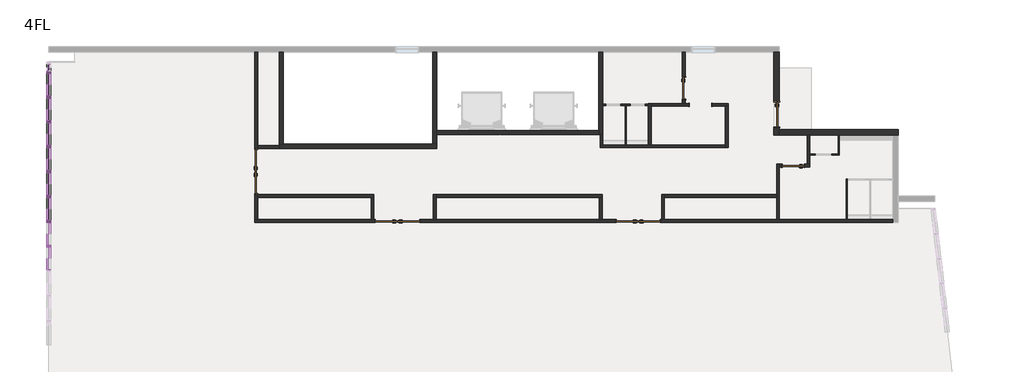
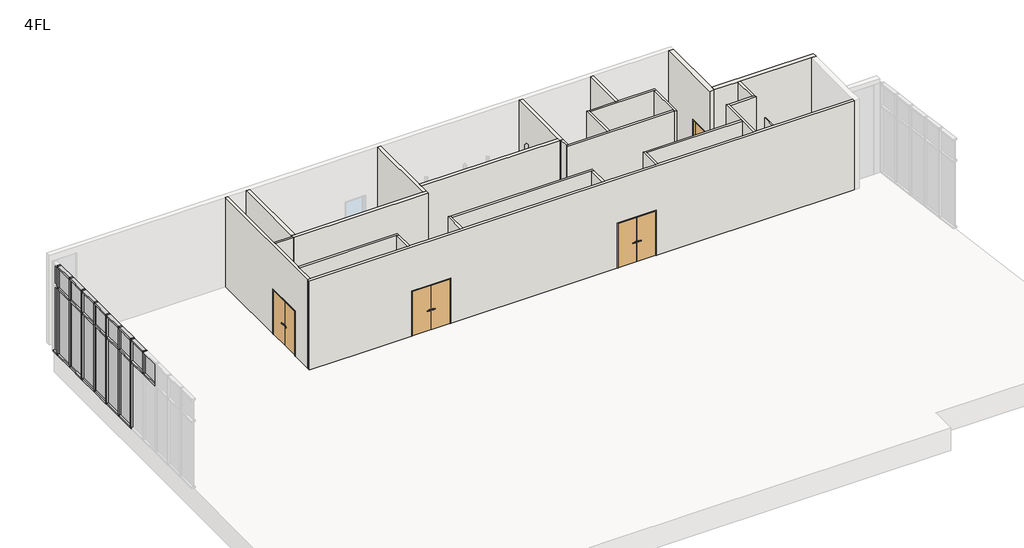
# One storey, part 3 of 4: 37 members, 31 walls, 16 plates, 7 doors.
"""IFC4 building model written with IfcOpenShell, lengths in millimetres."""

from ifc_helpers import new_model, si_unit, frame, origin, place, context, project, spatial, polyline, outline, extrude, faceted_brep, transform, mapped, element, save
from components import door_1de376c6, w800h2000_3f366617, w800h2000_fc627520, w800h2000_d76b1b72, w900h2000_8d150256, member_70x150_cdd4dcf9, member_70x150_66cf63de, member_70x150_26475b18, member_70x150_ad4265bc, member_70x150_a15bb337, plate_28587fd3, plate_396bcf3c, plate_4066ba05, plate_ba683b9a

model = new_model("IFC4")

# Units and contexts
model_context = context("Model", 3, world=origin())
ifc_project = project(units=[si_unit("LENGTHUNIT", "METRE", prefix="MILLI")], contexts=[model_context])

# Site, building, storey
site = spatial("IfcSite", under=ifc_project)
building = spatial("IfcBuilding", under=site)
storey = spatial("IfcBuildingStorey", under=building, Name="4FL", Elevation=12600.0)

# Doors
placement = place(None, origin())
door_shape = door_1de376c6(model_context)
element("IfcDoor", 1, ObjectType="両開き戸 : 両開き：w1600h2000", at=placement, inside=storey, context=model_context, shape_type="MappedRepresentation", body=[
    mapped(door_shape, transform((-21845.9784025, 12245.6585069, 12600.0), x_axis=(0.0, 1.0, 0.0), y_axis=(-1.0, 0.0, 0.0), z_axis=(0.0, 0.0, 1.0))),
])
element("IfcDoor", 2, ObjectType="両開き戸 : 両開き：w1600h2000", at=placement, inside=storey, context=model_context, shape_type="MappedRepresentation", body=[
    mapped(door_shape, transform((-16754.4500107, 10449.6868987, 12600.0), x_axis=(-1.0, 0.0, 0.0), y_axis=(0.0, -1.0, 0.0), z_axis=(0.0, 0.0, 1.0))),
])
element("IfcDoor", 3, ObjectType="両開き戸 : 両開き：w1600h2000", at=placement, inside=storey, context=model_context, shape_type="MappedRepresentation", body=[
    mapped(door_shape, transform((-8054.4500107, 10449.6868987, 12600.0), x_axis=(-1.0, 0.0, 0.0), y_axis=(0.0, -1.0, 0.0), z_axis=(0.0, 0.0, 1.0))),
])
w800h2000_shape = w800h2000_3f366617(model_context)
element("IfcDoor", 4, ObjectType="片開き戸 : w800h2000", at=placement, inside=storey, context=model_context, shape_type="MappedRepresentation", body=[
    mapped(w800h2000_shape, transform((-2445.9784025, 12449.6868987, 12600.0), x_axis=(-1.0, 0.0, 0.0), y_axis=(0.0, -1.0, 0.0), z_axis=(0.0, 0.0, 1.0))),
])
w800h2000_2_shape = w800h2000_fc627520(model_context)
element("IfcDoor", 5, ObjectType="片開き戸 : w800h2000", at=placement, inside=storey, context=model_context, shape_type="MappedRepresentation", body=[
    mapped(w800h2000_2_shape, transform((-6395.9784025, 15249.6868987, 12600.0), x_axis=(0.0, -1.0, 0.0), y_axis=(1.0, 0.0, 0.0), z_axis=(0.0, 0.0, 1.0))),
])
w800h2000_3_shape = w800h2000_d76b1b72(model_context)
element("IfcDoor", 6, ObjectType="開口枠あり : w800h2000", at=placement, inside=storey, context=model_context, shape_type="MappedRepresentation", body=[
    mapped(w800h2000_3_shape, transform((-5795.9784025, 14649.6868987, 12600.0), x_axis=(-1.0, 0.0, 0.0), y_axis=(0.0, -1.0, 0.0), z_axis=(0.0, 0.0, 1.0))),
])
w900h2000_shape = w900h2000_8d150256(model_context)
element("IfcDoor", 7, ObjectType="片開き戸 : w900h2000", at=placement, inside=storey, context=model_context, shape_type="MappedRepresentation", body=[
    mapped(w900h2000_shape, transform((-3045.9784025, 14299.6868987, 12600.0), x_axis=(0.0, -1.0, 0.0), y_axis=(1.0, 0.0, 0.0), z_axis=(0.0, 0.0, 1.0))),
])

# Members
member_70x150_shape = member_70x150_cdd4dcf9(model_context)
element("IfcMember", 8, ObjectType="長方形のマリオン : 70x150", at=placement, inside=storey, context=model_context, shape_type="MappedRepresentation", body=[
    mapped(member_70x150_shape, transform((-29345.9784025, 15834.6868987, 12600.0), x_axis=(0.0, 1.0, 0.0), y_axis=(1.0, 0.0, 0.0), z_axis=(0.0, 0.0, -1.0))),
])
element("IfcMember", 9, ObjectType="長方形のマリオン : 70x150", at=placement, inside=storey, context=model_context, shape_type="MappedRepresentation", body=[
    mapped(member_70x150_shape, transform((-29345.9784025, 14934.6868987, 12600.0), x_axis=(0.0, 1.0, 0.0), y_axis=(1.0, 0.0, 0.0), z_axis=(0.0, 0.0, -1.0))),
])
element("IfcMember", 10, ObjectType="長方形のマリオン : 70x150", at=placement, inside=storey, context=model_context, shape_type="MappedRepresentation", body=[
    mapped(member_70x150_shape, transform((-29345.9784025, 14034.6868987, 12600.0), x_axis=(0.0, 1.0, 0.0), y_axis=(1.0, 0.0, 0.0), z_axis=(0.0, 0.0, -1.0))),
])
element("IfcMember", 11, ObjectType="長方形のマリオン : 70x150", at=placement, inside=storey, context=model_context, shape_type="MappedRepresentation", body=[
    mapped(member_70x150_shape, transform((-29345.9784025, 13134.6868987, 12600.0), x_axis=(0.0, 1.0, 0.0), y_axis=(1.0, 0.0, 0.0), z_axis=(0.0, 0.0, -1.0))),
])
element("IfcMember", 12, ObjectType="長方形のマリオン : 70x150", at=placement, inside=storey, context=model_context, shape_type="MappedRepresentation", body=[
    mapped(member_70x150_shape, transform((-29345.9784025, 12234.6868987, 12600.0), x_axis=(0.0, 1.0, 0.0), y_axis=(1.0, 0.0, 0.0), z_axis=(0.0, 0.0, -1.0))),
])
element("IfcMember", 13, ObjectType="長方形のマリオン : 70x150", at=placement, inside=storey, context=model_context, shape_type="MappedRepresentation", body=[
    mapped(member_70x150_shape, transform((-29345.9784025, 11334.6868987, 12600.0), x_axis=(0.0, 1.0, 0.0), y_axis=(1.0, 0.0, 0.0), z_axis=(0.0, 0.0, -1.0))),
])
element("IfcMember", 14, ObjectType="長方形のマリオン : 70x150", at=placement, inside=storey, context=model_context, shape_type="MappedRepresentation", body=[
    mapped(member_70x150_shape, transform((-29345.9784025, 10434.6868987, 12600.0), x_axis=(0.0, 1.0, 0.0), y_axis=(1.0, 0.0, 0.0), z_axis=(0.0, 0.0, -1.0))),
])
member_70x150_2_shape = member_70x150_66cf63de(model_context)
element("IfcMember", 15, ObjectType="長方形のマリオン : 70x150", at=placement, inside=storey, context=model_context, shape_type="MappedRepresentation", body=[
    mapped(member_70x150_2_shape, transform((-29345.9784025, 14969.6868987, 12600.0), x_axis=(0.0, 0.0, -1.0), y_axis=(1.0, 0.0, 0.0), z_axis=(0.0, -1.0, 0.0))),
])
element("IfcMember", 16, ObjectType="長方形のマリオン : 70x150", at=placement, inside=storey, context=model_context, shape_type="MappedRepresentation", body=[
    mapped(member_70x150_2_shape, transform((-29345.9784025, 14069.6868987, 12600.0), x_axis=(0.0, 0.0, -1.0), y_axis=(1.0, 0.0, 0.0), z_axis=(0.0, -1.0, 0.0))),
])
element("IfcMember", 17, ObjectType="長方形のマリオン : 70x150", at=placement, inside=storey, context=model_context, shape_type="MappedRepresentation", body=[
    mapped(member_70x150_2_shape, transform((-29345.9784025, 13169.6868987, 12600.0), x_axis=(0.0, 0.0, -1.0), y_axis=(1.0, 0.0, 0.0), z_axis=(0.0, -1.0, 0.0))),
])
element("IfcMember", 18, ObjectType="長方形のマリオン : 70x150", at=placement, inside=storey, context=model_context, shape_type="MappedRepresentation", body=[
    mapped(member_70x150_2_shape, transform((-29345.9784025, 12269.6868987, 12600.0), x_axis=(0.0, 0.0, -1.0), y_axis=(1.0, 0.0, 0.0), z_axis=(0.0, -1.0, 0.0))),
])
element("IfcMember", 19, ObjectType="長方形のマリオン : 70x150", at=placement, inside=storey, context=model_context, shape_type="MappedRepresentation", body=[
    mapped(member_70x150_2_shape, transform((-29345.9784025, 11369.6868987, 12600.0), x_axis=(0.0, 0.0, -1.0), y_axis=(1.0, 0.0, 0.0), z_axis=(0.0, -1.0, 0.0))),
])
element("IfcMember", 20, ObjectType="長方形のマリオン : 70x150", at=placement, inside=storey, context=model_context, shape_type="MappedRepresentation", body=[
    mapped(member_70x150_2_shape, transform((-29345.9784025, 10469.6868987, 12600.0), x_axis=(0.0, 0.0, -1.0), y_axis=(1.0, 0.0, 0.0), z_axis=(0.0, -1.0, 0.0))),
])
element("IfcMember", 21, ObjectType="長方形のマリオン : 70x150", at=placement, inside=storey, context=model_context, shape_type="MappedRepresentation", body=[
    mapped(member_70x150_2_shape, transform((-29345.9784025, 15799.6868987, 16600.0), x_axis=(0.0, 0.0, 1.0), y_axis=(1.0, 0.0, 0.0), z_axis=(0.0, 1.0, 0.0))),
])
element("IfcMember", 22, ObjectType="長方形のマリオン : 70x150", at=placement, inside=storey, context=model_context, shape_type="MappedRepresentation", body=[
    mapped(member_70x150_2_shape, transform((-29345.9784025, 14899.6868987, 16600.0), x_axis=(0.0, 0.0, 1.0), y_axis=(1.0, 0.0, 0.0), z_axis=(0.0, 1.0, 0.0))),
])
element("IfcMember", 23, ObjectType="長方形のマリオン : 70x150", at=placement, inside=storey, context=model_context, shape_type="MappedRepresentation", body=[
    mapped(member_70x150_2_shape, transform((-29345.9784025, 13999.6868987, 16600.0), x_axis=(0.0, 0.0, 1.0), y_axis=(1.0, 0.0, 0.0), z_axis=(0.0, 1.0, 0.0))),
])
element("IfcMember", 24, ObjectType="長方形のマリオン : 70x150", at=placement, inside=storey, context=model_context, shape_type="MappedRepresentation", body=[
    mapped(member_70x150_2_shape, transform((-29345.9784025, 13099.6868987, 16600.0), x_axis=(0.0, 0.0, 1.0), y_axis=(1.0, 0.0, 0.0), z_axis=(0.0, 1.0, 0.0))),
])
element("IfcMember", 25, ObjectType="長方形のマリオン : 70x150", at=placement, inside=storey, context=model_context, shape_type="MappedRepresentation", body=[
    mapped(member_70x150_2_shape, transform((-29345.9784025, 12199.6868987, 16600.0), x_axis=(0.0, 0.0, 1.0), y_axis=(1.0, 0.0, 0.0), z_axis=(0.0, 1.0, 0.0))),
])
element("IfcMember", 26, ObjectType="長方形のマリオン : 70x150", at=placement, inside=storey, context=model_context, shape_type="MappedRepresentation", body=[
    mapped(member_70x150_2_shape, transform((-29345.9784025, 11299.6868987, 16600.0), x_axis=(0.0, 0.0, 1.0), y_axis=(1.0, 0.0, 0.0), z_axis=(0.0, 1.0, 0.0))),
])
element("IfcMember", 27, ObjectType="長方形のマリオン : 70x150", at=placement, inside=storey, context=model_context, shape_type="MappedRepresentation", body=[
    mapped(member_70x150_2_shape, transform((-29345.9784025, 10399.6868987, 16600.0), x_axis=(0.0, 0.0, 1.0), y_axis=(1.0, 0.0, 0.0), z_axis=(0.0, 1.0, 0.0))),
])
member_70x150_3_shape = member_70x150_26475b18(model_context)
element("IfcMember", 28, ObjectType="長方形のマリオン : 70x150", at=placement, inside=storey, context=model_context, shape_type="MappedRepresentation", body=[
    mapped(member_70x150_3_shape, transform((-29345.9784025, 15834.6868987, 15600.0), x_axis=(0.0, 1.0, 0.0), y_axis=(1.0, 0.0, 0.0), z_axis=(0.0, 0.0, -1.0))),
])
element("IfcMember", 29, ObjectType="長方形のマリオン : 70x150", at=placement, inside=storey, context=model_context, shape_type="MappedRepresentation", body=[
    mapped(member_70x150_3_shape, transform((-29345.9784025, 14934.6868987, 15600.0), x_axis=(0.0, 1.0, 0.0), y_axis=(1.0, 0.0, 0.0), z_axis=(0.0, 0.0, -1.0))),
])
element("IfcMember", 30, ObjectType="長方形のマリオン : 70x150", at=placement, inside=storey, context=model_context, shape_type="MappedRepresentation", body=[
    mapped(member_70x150_3_shape, transform((-29345.9784025, 14034.6868987, 15600.0), x_axis=(0.0, 1.0, 0.0), y_axis=(1.0, 0.0, 0.0), z_axis=(0.0, 0.0, -1.0))),
])
element("IfcMember", 31, ObjectType="長方形のマリオン : 70x150", at=placement, inside=storey, context=model_context, shape_type="MappedRepresentation", body=[
    mapped(member_70x150_3_shape, transform((-29345.9784025, 13134.6868987, 15600.0), x_axis=(0.0, 1.0, 0.0), y_axis=(1.0, 0.0, 0.0), z_axis=(0.0, 0.0, -1.0))),
])
element("IfcMember", 32, ObjectType="長方形のマリオン : 70x150", at=placement, inside=storey, context=model_context, shape_type="MappedRepresentation", body=[
    mapped(member_70x150_3_shape, transform((-29345.9784025, 12234.6868987, 15600.0), x_axis=(0.0, 1.0, 0.0), y_axis=(1.0, 0.0, 0.0), z_axis=(0.0, 0.0, -1.0))),
])
element("IfcMember", 33, ObjectType="長方形のマリオン : 70x150", at=placement, inside=storey, context=model_context, shape_type="MappedRepresentation", body=[
    mapped(member_70x150_3_shape, transform((-29345.9784025, 11334.6868987, 15600.0), x_axis=(0.0, 1.0, 0.0), y_axis=(1.0, 0.0, 0.0), z_axis=(0.0, 0.0, -1.0))),
])
element("IfcMember", 34, ObjectType="長方形のマリオン : 70x150", at=placement, inside=storey, context=model_context, shape_type="MappedRepresentation", body=[
    mapped(member_70x150_3_shape, transform((-29345.9784025, 10434.6868987, 15600.0), x_axis=(0.0, 1.0, 0.0), y_axis=(1.0, 0.0, 0.0), z_axis=(0.0, 0.0, -1.0))),
])
element("IfcMember", 35, ObjectType="長方形のマリオン : 70x150", at=placement, inside=storey, context=model_context, shape_type="MappedRepresentation", body=[
    mapped(member_70x150_3_shape, transform((-29345.9784025, 9534.6868987, 15600.0), x_axis=(0.0, 1.0, 0.0), y_axis=(1.0, 0.0, 0.0), z_axis=(0.0, 0.0, -1.0))),
])
member_70x150_4_shape = member_70x150_ad4265bc(model_context)
element("IfcMember", 36, ObjectType="長方形のマリオン : 70x150", at=placement, inside=storey, context=model_context, shape_type="MappedRepresentation", body=[
    mapped(member_70x150_4_shape, transform((-29345.9784025, 12199.6868987, 15600.0), x_axis=(0.0, 0.0, 1.0), y_axis=(1.0, 0.0, 0.0), z_axis=(0.0, 1.0, 0.0))),
])
element("IfcMember", 37, ObjectType="長方形のマリオン : 70x150", at=placement, inside=storey, context=model_context, shape_type="MappedRepresentation", body=[
    mapped(member_70x150_4_shape, transform((-29345.9784025, 9499.6868987, 15600.0), x_axis=(0.0, 0.0, 1.0), y_axis=(1.0, 0.0, 0.0), z_axis=(0.0, 1.0, 0.0))),
])
element("IfcMember", 38, ObjectType="長方形のマリオン : 70x150", at=placement, inside=storey, context=model_context, shape_type="MappedRepresentation", body=[
    mapped(member_70x150_4_shape, transform((-29345.9784025, 10399.6868987, 15600.0), x_axis=(0.0, 0.0, 1.0), y_axis=(1.0, 0.0, 0.0), z_axis=(0.0, 1.0, 0.0))),
])
element("IfcMember", 39, ObjectType="長方形のマリオン : 70x150", at=placement, inside=storey, context=model_context, shape_type="MappedRepresentation", body=[
    mapped(member_70x150_4_shape, transform((-29345.9784025, 13099.6868987, 15600.0), x_axis=(0.0, 0.0, 1.0), y_axis=(1.0, 0.0, 0.0), z_axis=(0.0, 1.0, 0.0))),
])
element("IfcMember", 40, ObjectType="長方形のマリオン : 70x150", at=placement, inside=storey, context=model_context, shape_type="MappedRepresentation", body=[
    mapped(member_70x150_4_shape, transform((-29345.9784025, 13999.6868987, 15600.0), x_axis=(0.0, 0.0, 1.0), y_axis=(1.0, 0.0, 0.0), z_axis=(0.0, 1.0, 0.0))),
])
element("IfcMember", 41, ObjectType="長方形のマリオン : 70x150", at=placement, inside=storey, context=model_context, shape_type="MappedRepresentation", body=[
    mapped(member_70x150_4_shape, transform((-29345.9784025, 11299.6868987, 15600.0), x_axis=(0.0, 0.0, 1.0), y_axis=(1.0, 0.0, 0.0), z_axis=(0.0, 1.0, 0.0))),
])
element("IfcMember", 42, ObjectType="長方形のマリオン : 70x150", at=placement, inside=storey, context=model_context, shape_type="MappedRepresentation", body=[
    mapped(member_70x150_4_shape, transform((-29345.9784025, 15799.6868987, 15600.0), x_axis=(0.0, 0.0, 1.0), y_axis=(1.0, 0.0, 0.0), z_axis=(0.0, 1.0, 0.0))),
])
element("IfcMember", 43, ObjectType="長方形のマリオン : 70x150", at=placement, inside=storey, context=model_context, shape_type="MappedRepresentation", body=[
    mapped(member_70x150_4_shape, transform((-29345.9784025, 14899.6868987, 15600.0), x_axis=(0.0, 0.0, 1.0), y_axis=(1.0, 0.0, 0.0), z_axis=(0.0, 1.0, 0.0))),
])
member_70x150_5_shape = member_70x150_a15bb337(model_context)
element("IfcMember", 44, ObjectType="長方形のマリオン : 70x150", at=placement, inside=storey, context=model_context, shape_type="MappedRepresentation", body=[
    mapped(member_70x150_5_shape, transform((-29345.9784025, 15869.6868987, 12600.0), x_axis=(0.0, 0.0, -1.0), y_axis=(1.0, 0.0, 0.0), z_axis=(0.0, -1.0, 0.0))),
])

# Plates
plate_shape = plate_28587fd3(model_context)
element("IfcPlate", 45, ObjectType="システム パネル : 標準", at=placement, inside=storey, context=model_context, shape_type="MappedRepresentation", body=[
    mapped(plate_shape, transform((-29345.9784025, 10884.6868987, 12670.0), x_axis=(0.0, 1.0, 0.0), y_axis=(-1.0, 0.0, 0.0), z_axis=(0.0, 0.0, 1.0))),
])
element("IfcPlate", 46, ObjectType="システム パネル : 標準", at=placement, inside=storey, context=model_context, shape_type="MappedRepresentation", body=[
    mapped(plate_shape, transform((-29345.9784025, 11784.6868987, 12670.0), x_axis=(0.0, 1.0, 0.0), y_axis=(-1.0, 0.0, 0.0), z_axis=(0.0, 0.0, 1.0))),
])
element("IfcPlate", 47, ObjectType="システム パネル : 標準", at=placement, inside=storey, context=model_context, shape_type="MappedRepresentation", body=[
    mapped(plate_shape, transform((-29345.9784025, 12684.6868987, 12670.0), x_axis=(0.0, 1.0, 0.0), y_axis=(-1.0, 0.0, 0.0), z_axis=(0.0, 0.0, 1.0))),
])
element("IfcPlate", 48, ObjectType="システム パネル : 標準", at=placement, inside=storey, context=model_context, shape_type="MappedRepresentation", body=[
    mapped(plate_shape, transform((-29345.9784025, 13584.6868987, 12670.0), x_axis=(0.0, 1.0, 0.0), y_axis=(-1.0, 0.0, 0.0), z_axis=(0.0, 0.0, 1.0))),
])
element("IfcPlate", 49, ObjectType="システム パネル : 標準", at=placement, inside=storey, context=model_context, shape_type="MappedRepresentation", body=[
    mapped(plate_shape, transform((-29345.9784025, 14484.6868987, 12670.0), x_axis=(0.0, 1.0, 0.0), y_axis=(-1.0, 0.0, 0.0), z_axis=(0.0, 0.0, 1.0))),
])
element("IfcPlate", 50, ObjectType="システム パネル : 標準", at=placement, inside=storey, context=model_context, shape_type="MappedRepresentation", body=[
    mapped(plate_shape, transform((-29345.9784025, 15384.6868987, 12670.0), x_axis=(0.0, 1.0, 0.0), y_axis=(-1.0, 0.0, 0.0), z_axis=(0.0, 0.0, 1.0))),
])
plate_2_shape = plate_396bcf3c(model_context)
element("IfcPlate", 51, ObjectType="システム パネル : 標準", at=placement, inside=storey, context=model_context, shape_type="MappedRepresentation", body=[
    mapped(plate_2_shape, transform((-29345.9784025, 9084.6868987, 15635.0), x_axis=(0.0, 1.0, 0.0), y_axis=(-1.0, 0.0, 0.0), z_axis=(0.0, 0.0, 1.0))),
])
element("IfcPlate", 52, ObjectType="システム パネル : 標準", at=placement, inside=storey, context=model_context, shape_type="MappedRepresentation", body=[
    mapped(plate_2_shape, transform((-29345.9784025, 9984.6868987, 15635.0), x_axis=(0.0, 1.0, 0.0), y_axis=(-1.0, 0.0, 0.0), z_axis=(0.0, 0.0, 1.0))),
])
element("IfcPlate", 53, ObjectType="システム パネル : 標準", at=placement, inside=storey, context=model_context, shape_type="MappedRepresentation", body=[
    mapped(plate_2_shape, transform((-29345.9784025, 10884.6868987, 15635.0), x_axis=(0.0, 1.0, 0.0), y_axis=(-1.0, 0.0, 0.0), z_axis=(0.0, 0.0, 1.0))),
])
element("IfcPlate", 54, ObjectType="システム パネル : 標準", at=placement, inside=storey, context=model_context, shape_type="MappedRepresentation", body=[
    mapped(plate_2_shape, transform((-29345.9784025, 11784.6868987, 15635.0), x_axis=(0.0, 1.0, 0.0), y_axis=(-1.0, 0.0, 0.0), z_axis=(0.0, 0.0, 1.0))),
])
element("IfcPlate", 55, ObjectType="システム パネル : 標準", at=placement, inside=storey, context=model_context, shape_type="MappedRepresentation", body=[
    mapped(plate_2_shape, transform((-29345.9784025, 12684.6868987, 15635.0), x_axis=(0.0, 1.0, 0.0), y_axis=(-1.0, 0.0, 0.0), z_axis=(0.0, 0.0, 1.0))),
])
element("IfcPlate", 56, ObjectType="システム パネル : 標準", at=placement, inside=storey, context=model_context, shape_type="MappedRepresentation", body=[
    mapped(plate_2_shape, transform((-29345.9784025, 13584.6868987, 15635.0), x_axis=(0.0, 1.0, 0.0), y_axis=(-1.0, 0.0, 0.0), z_axis=(0.0, 0.0, 1.0))),
])
element("IfcPlate", 57, ObjectType="システム パネル : 標準", at=placement, inside=storey, context=model_context, shape_type="MappedRepresentation", body=[
    mapped(plate_2_shape, transform((-29345.9784025, 14484.6868987, 15635.0), x_axis=(0.0, 1.0, 0.0), y_axis=(-1.0, 0.0, 0.0), z_axis=(0.0, 0.0, 1.0))),
])
element("IfcPlate", 58, ObjectType="システム パネル : 標準", at=placement, inside=storey, context=model_context, shape_type="MappedRepresentation", body=[
    mapped(plate_2_shape, transform((-29345.9784025, 15384.6868987, 15635.0), x_axis=(0.0, 1.0, 0.0), y_axis=(-1.0, 0.0, 0.0), z_axis=(0.0, 0.0, 1.0))),
])
plate_3_shape = plate_4066ba05(model_context)
element("IfcPlate", 59, ObjectType="システム パネル : 標準", at=placement, inside=storey, context=model_context, shape_type="MappedRepresentation", body=[
    mapped(plate_3_shape, transform((-29345.9784025, 15999.6868987, 12670.0), x_axis=(0.0, 1.0, 0.0), y_axis=(-1.0, 0.0, 0.0), z_axis=(0.0, 0.0, 1.0))),
])
plate_4_shape = plate_ba683b9a(model_context)
element("IfcPlate", 60, ObjectType="システム パネル : 標準", at=placement, inside=storey, context=model_context, shape_type="MappedRepresentation", body=[
    mapped(plate_4_shape, transform((-29345.9784025, 15999.6868987, 15635.0), x_axis=(0.0, 1.0, 0.0), y_axis=(-1.0, 0.0, 0.0), z_axis=(0.0, 0.0, 1.0))),
])

# Walls
element("IfcWall", 61, ObjectType="標準200", at=placement, inside=storey, context=model_context, shape_type="Brep", body=[
    faceted_brep([(-3145.9784025, 16549.6868987, 12600.0), (-3145.9784025, 14774.6868987, 12600.0), (-3145.9784025, 14774.6868987, 14625.0), (-3145.9784025, 13824.6868987, 14625.0), (-3145.9784025, 13824.6868987, 12600.0), (-3145.9784025, 13549.6868987, 12600.0), (-3145.9784025, 13549.6868987, 16600.0), (-3145.9784025, 16549.6868987, 16600.0), (-2945.9784025, 14774.6868987, 14625.0), (-2945.9784025, 14774.6868987, 12600.0), (-2945.9784025, 16549.6868987, 12600.0), (-2945.9784025, 16549.6868987, 16600.0), (-2945.9784025, 13749.6868987, 16600.0), (-2945.9784025, 13549.6868987, 16600.0), (-2945.9784025, 13549.6868987, 12600.0), (-2945.9784025, 13749.6868987, 12600.0), (-2945.9784025, 13824.6868987, 12600.0), (-2945.9784025, 13824.6868987, 14625.0)], [[[0, 1, 2, 3, 4, 5, 6, 7]], [[8, 9, 10, 11, 12, 13, 14, 15, 16, 17]], [[10, 9, 1, 0]], [[16, 15, 14, 5, 4]], [[7, 6, 13, 12, 11]], [[0, 7, 11, 10]], [[6, 5, 14, 13]], [[4, 3, 17, 16]], [[2, 1, 9, 8]], [[3, 2, 8, 17]]]),
])
element("IfcWall", 62, ObjectType="標準200", at=placement, inside=storey, context=model_context, shape_type="Brep", body=[
    faceted_brep([(-2945.9784025, 13549.6868987, 12600.0), (-1945.9784025, 13549.6868987, 12600.0), (-1845.9784025, 13549.6868987, 12600.0), (-815.9784025, 13549.6868987, 12600.0), (-775.9784025, 13549.6868987, 12600.0), (1154.0215975, 13549.6868987, 12600.0), (1354.0215975, 13549.6868987, 12600.0), (1354.0215975, 13549.6868987, 16600.0), (1154.0215975, 13549.6868987, 16600.0), (-1845.9784025, 13549.6868987, 16600.0), (-1945.9784025, 13549.6868987, 16600.0), (-2945.9784025, 13549.6868987, 16600.0), (-2945.9784025, 13749.6868987, 12600.0), (-2945.9784025, 13749.6868987, 16600.0), (1354.0215975, 13749.6868987, 16600.0), (1354.0215975, 13749.6868987, 12600.0)], [[[0, 1, 2, 3, 4, 5, 6, 7, 8, 9, 10, 11]], [[12, 13, 14, 15]], [[6, 5, 4, 3, 2, 1, 0, 12, 15]], [[11, 10, 9, 8, 7, 14, 13]], [[0, 11, 13, 12]], [[7, 6, 15, 14]]]),
])
element("IfcWall", 63, ObjectType="標準150", at=placement, inside=storey, context=model_context, shape_type="Brep", body=[
    faceted_brep([(-9470.9784025, 16549.6868987, 12600.0), (-9470.9784025, 13724.6868987, 12600.0), (-9470.9784025, 13574.6868987, 12600.0), (-9470.9784025, 13574.6868987, 16600.0), (-9470.9784025, 13724.6868987, 16600.0), (-9470.9784025, 16549.6868987, 16600.0), (-9320.9784025, 16549.6868987, 12600.0), (-9320.9784025, 16549.6868987, 16600.0), (-9320.9784025, 13574.6868987, 16600.0), (-9320.9784025, 13574.6868987, 12600.0), (-9320.9784025, 14629.6868987, 12600.0), (-9320.9784025, 14669.6868987, 12600.0), (-9420.9784025, 13574.6868987, 12600.0), (-9420.9784025, 13574.6868987, 16600.0)], [[[0, 1, 2, 3, 4, 5]], [[6, 7, 8, 9, 10, 11]], [[2, 1, 0, 6, 11, 10, 9, 12]], [[5, 4, 3, 13, 8, 7]], [[0, 5, 7, 6]], [[3, 2, 12, 9, 8, 13]]]),
])
element("IfcWall", 64, ObjectType="標準150", at=placement, inside=storey, context=model_context, shape_type="SweptSolid", body=[
    extrude(outline(polyline([(-15320.9784025, 13724.6868987), (-9470.9784025, 13724.6868987), (-9470.9784025, 13574.6868987), (-15320.9784025, 13574.6868987), (-15320.9784025, 13724.6868987)])), frame((0.0, 0.0, 12600.0), z_axis=(0.0, 0.0, 1.0), x_axis=(1.0, 0.0, 0.0)), (0.0, 0.0, 1.0), 4000.0),
])
element("IfcWall", 65, ObjectType="標準150", at=placement, inside=storey, context=model_context, shape_type="Brep", body=[
    faceted_brep([(-15320.9784025, 13224.6868987, 12600.0), (-15320.9784025, 13574.6868987, 12600.0), (-15320.9784025, 13724.6868987, 12600.0), (-15320.9784025, 16549.6868987, 12600.0), (-15320.9784025, 16549.6868987, 16600.0), (-15320.9784025, 13724.6868987, 16600.0), (-15320.9784025, 13574.6868987, 16600.0), (-15320.9784025, 13224.6868987, 16600.0), (-15470.9784025, 13224.6868987, 12600.0), (-15470.9784025, 13224.6868987, 16600.0), (-15470.9784025, 16549.6868987, 16600.0), (-15470.9784025, 16549.6868987, 12600.0)], [[[0, 1, 2, 3, 4, 5, 6, 7]], [[8, 9, 10, 11]], [[3, 2, 1, 0, 8, 11]], [[7, 6, 5, 4, 10, 9]], [[4, 3, 11, 10]], [[0, 7, 9, 8]]]),
])
element("IfcWall", 66, ObjectType="標準150", at=placement, inside=storey, context=model_context, shape_type="Brep", body=[
    faceted_brep([(-15320.9784025, 13224.6868987, 12600.0), (-15470.9784025, 13224.6868987, 12600.0), (-20870.9784025, 13224.6868987, 12600.0), (-21020.9784025, 13224.6868987, 12600.0), (-21020.9784025, 13224.6868987, 16600.0), (-20870.9784025, 13224.6868987, 16600.0), (-15470.9784025, 13224.6868987, 16600.0), (-15320.9784025, 13224.6868987, 16600.0), (-15320.9784025, 13074.6868987, 12600.0), (-15320.9784025, 13074.6868987, 16600.0), (-21020.9784025, 13074.6868987, 16600.0), (-21020.9784025, 13074.6868987, 12600.0), (-21020.9784025, 13174.6868987, 12600.0), (-21020.9784025, 13174.6868987, 16600.0)], [[[0, 1, 2, 3, 4, 5, 6, 7]], [[8, 9, 10, 11]], [[3, 2, 1, 0, 8, 11, 12]], [[7, 6, 5, 4, 13, 10, 9]], [[4, 3, 12, 11, 10, 13]], [[0, 7, 9, 8]]]),
])
element("IfcWall", 67, ObjectType="標準150", at=placement, inside=storey, context=model_context, shape_type="SweptSolid", body=[
    extrude(outline(polyline([(-20870.9784025, 16549.6868987), (-20870.9784025, 13224.6868987), (-21020.9784025, 13224.6868987), (-21020.9784025, 16549.6868987), (-20870.9784025, 16549.6868987)])), frame((0.0, 0.0, 12600.0), z_axis=(0.0, 0.0, 1.0), x_axis=(1.0, 0.0, 0.0)), (0.0, 0.0, 1.0), 4000.0),
])
element("IfcWall", 68, ObjectType="標準100", at=placement, inside=storey, context=model_context, shape_type="Brep", body=[
    faceted_brep([(1154.0215975, 10499.6868987, 12600.0), (354.0215975, 10499.6868987, 12600.0), (314.0215975, 10499.6868987, 12600.0), (-485.9784025, 10499.6868987, 12600.0), (-525.9784025, 10499.6868987, 12600.0), (-2945.9784025, 10499.6868987, 12600.0), (-3045.9784025, 10499.6868987, 12600.0), (-7095.9784025, 10499.6868987, 12600.0), (-7195.9784025, 10499.6868987, 12600.0), (-7220.9784025, 10499.6868987, 12600.0), (-7220.9784025, 10499.6868987, 14625.0), (-8870.9784025, 10499.6868987, 14625.0), (-8870.9784025, 10499.6868987, 12600.0), (-9345.9784025, 10499.6868987, 12600.0), (-9445.9784025, 10499.6868987, 12600.0), (-15345.9784025, 10499.6868987, 12600.0), (-15445.9784025, 10499.6868987, 12600.0), (-15920.9784025, 10499.6868987, 12600.0), (-15920.9784025, 10499.6868987, 14625.0), (-17570.9784025, 10499.6868987, 14625.0), (-17570.9784025, 10499.6868987, 12600.0), (-17595.9784025, 10499.6868987, 12600.0), (-17695.9784025, 10499.6868987, 12600.0), (-21795.9784025, 10499.6868987, 12600.0), (-21895.9784025, 10499.6868987, 12600.0), (-21895.9784025, 10499.6868987, 16600.0), (-21795.9784025, 10499.6868987, 16600.0), (-17695.9784025, 10499.6868987, 16600.0), (-17595.9784025, 10499.6868987, 16600.0), (-15445.9784025, 10499.6868987, 16600.0), (-15345.9784025, 10499.6868987, 16600.0), (-9445.9784025, 10499.6868987, 16600.0), (-9345.9784025, 10499.6868987, 16600.0), (-7195.9784025, 10499.6868987, 16600.0), (-7095.9784025, 10499.6868987, 16600.0), (-3045.9784025, 10499.6868987, 16600.0), (-2945.9784025, 10499.6868987, 16600.0), (1154.0215975, 10499.6868987, 16600.0), (-7220.9784025, 10399.6868987, 14625.0), (-7220.9784025, 10399.6868987, 12600.0), (1154.0215975, 10399.6868987, 12600.0), (1154.0215975, 10399.6868987, 16600.0), (-21895.9784025, 10399.6868987, 16600.0), (-21895.9784025, 10399.6868987, 12600.0), (-17570.9784025, 10399.6868987, 12600.0), (-17570.9784025, 10399.6868987, 14625.0), (-15920.9784025, 10399.6868987, 14625.0), (-15920.9784025, 10399.6868987, 12600.0), (-8870.9784025, 10399.6868987, 12600.0), (-8870.9784025, 10399.6868987, 14625.0)], [[[0, 1, 2, 3, 4, 5, 6, 7, 8, 9, 10, 11, 12, 13, 14, 15, 16, 17, 18, 19, 20, 21, 22, 23, 24, 25, 26, 27, 28, 29, 30, 31, 32, 33, 34, 35, 36, 37]], [[38, 39, 40, 41, 42, 43, 44, 45, 46, 47, 48, 49]], [[44, 43, 24, 23, 22, 21, 20]], [[48, 47, 17, 16, 15, 14, 13, 12]], [[40, 39, 9, 8, 7, 6, 5, 4, 3, 2, 1, 0]], [[37, 36, 35, 34, 33, 32, 31, 30, 29, 28, 27, 26, 25, 42, 41]], [[25, 24, 43, 42]], [[0, 37, 41, 40]], [[20, 19, 45, 44]], [[18, 17, 47, 46]], [[19, 18, 46, 45]], [[12, 11, 49, 48]], [[10, 9, 39, 38]], [[11, 10, 38, 49]]]),
])
element("IfcWall", 69, ObjectType="標準100", at=placement, inside=storey, context=model_context, shape_type="Brep", body=[
    faceted_brep([(-21795.9784025, 10499.6868987, 12600.0), (-21795.9784025, 11299.6868987, 12600.0), (-21795.9784025, 11399.6868987, 12600.0), (-21795.9784025, 11412.1868987, 12600.0), (-21795.9784025, 11412.1868987, 14625.0), (-21795.9784025, 13062.1868987, 14625.0), (-21795.9784025, 13062.1868987, 12600.0), (-21795.9784025, 13074.6868987, 12600.0), (-21795.9784025, 13174.6868987, 12600.0), (-21795.9784025, 16549.6868987, 12600.0), (-21795.9784025, 16549.6868987, 16600.0), (-21795.9784025, 13174.6868987, 16600.0), (-21795.9784025, 13074.6868987, 16600.0), (-21795.9784025, 11399.6868987, 16600.0), (-21795.9784025, 11299.6868987, 16600.0), (-21795.9784025, 10499.6868987, 16600.0), (-21895.9784025, 11412.1868987, 14625.0), (-21895.9784025, 11412.1868987, 12600.0), (-21895.9784025, 10499.6868987, 12600.0), (-21895.9784025, 10499.6868987, 16600.0), (-21895.9784025, 16549.6868987, 16600.0), (-21895.9784025, 16549.6868987, 12600.0), (-21895.9784025, 13062.1868987, 12600.0), (-21895.9784025, 13062.1868987, 14625.0)], [[[0, 1, 2, 3, 4, 5, 6, 7, 8, 9, 10, 11, 12, 13, 14, 15]], [[16, 17, 18, 19, 20, 21, 22, 23]], [[22, 21, 9, 8, 7, 6]], [[18, 17, 3, 2, 1, 0]], [[15, 14, 13, 12, 11, 10, 20, 19]], [[0, 15, 19, 18]], [[10, 9, 21, 20]], [[6, 5, 23, 22]], [[4, 3, 17, 16]], [[5, 4, 16, 23]]]),
])
element("IfcWall", 70, ObjectType="標準100", at=placement, inside=storey, context=model_context, shape_type="Brep", body=[
    faceted_brep([(-2945.9784025, 10499.6868987, 12600.0), (-2945.9784025, 12399.6868987, 12600.0), (-2945.9784025, 12499.6868987, 12600.0), (-2945.9784025, 12499.6868987, 16600.0), (-2945.9784025, 12399.6868987, 16600.0), (-2945.9784025, 10499.6868987, 16600.0), (-3045.9784025, 10499.6868987, 12600.0), (-3045.9784025, 10499.6868987, 16600.0), (-3045.9784025, 11299.6868987, 16600.0), (-3045.9784025, 11399.6868987, 16600.0), (-3045.9784025, 12499.6868987, 16600.0), (-3045.9784025, 12499.6868987, 12600.0), (-3045.9784025, 11399.6868987, 12600.0), (-3045.9784025, 11299.6868987, 12600.0)], [[[0, 1, 2, 3, 4, 5]], [[6, 7, 8, 9, 10, 11, 12, 13]], [[2, 1, 0, 6, 13, 12, 11]], [[5, 4, 3, 10, 9, 8, 7]], [[0, 5, 7, 6]], [[3, 2, 11, 10]]]),
])
element("IfcWall", 71, ObjectType="標準100", at=placement, inside=storey, context=model_context, shape_type="Brep", body=[
    faceted_brep([(-7095.9784025, 10499.6868987, 12600.0), (-7095.9784025, 11299.6868987, 12600.0), (-7095.9784025, 11399.6868987, 12600.0), (-7095.9784025, 11399.6868987, 16600.0), (-7095.9784025, 11299.6868987, 16600.0), (-7095.9784025, 10499.6868987, 16600.0), (-7195.9784025, 10499.6868987, 12600.0), (-7195.9784025, 10499.6868987, 16600.0), (-7195.9784025, 11399.6868987, 16600.0), (-7195.9784025, 11399.6868987, 12600.0)], [[[0, 1, 2, 3, 4, 5]], [[6, 7, 8, 9]], [[2, 1, 0, 6, 9]], [[5, 4, 3, 8, 7]], [[0, 5, 7, 6]], [[3, 2, 9, 8]]]),
])
element("IfcWall", 72, ObjectType="標準100", at=placement, inside=storey, context=model_context, shape_type="SweptSolid", body=[
    extrude(outline(polyline([(-3045.9784025, 11299.6868987), (-7095.9784025, 11299.6868987), (-7095.9784025, 11399.6868987), (-3045.9784025, 11399.6868987), (-3045.9784025, 11299.6868987)])), frame((0.0, 0.0, 12600.0), z_axis=(0.0, 0.0, 1.0), x_axis=(1.0, 0.0, 0.0)), (0.0, 0.0, 1.0), 4000.0),
])
element("IfcWall", 73, ObjectType="標準100", at=placement, inside=storey, context=model_context, shape_type="Brep", body=[
    faceted_brep([(-15345.9784025, 10499.6868987, 12600.0), (-15345.9784025, 11299.6868987, 12600.0), (-15345.9784025, 11399.6868987, 12600.0), (-15345.9784025, 11399.6868987, 16600.0), (-15345.9784025, 11299.6868987, 16600.0), (-15345.9784025, 10499.6868987, 16600.0), (-15445.9784025, 10499.6868987, 12600.0), (-15445.9784025, 10499.6868987, 16600.0), (-15445.9784025, 11399.6868987, 16600.0), (-15445.9784025, 11399.6868987, 12600.0), (-15445.9784025, 11349.6868987, 12600.0), (-15445.9784025, 11299.6868987, 12600.0)], [[[0, 1, 2, 3, 4, 5]], [[6, 7, 8, 9, 10, 11]], [[2, 1, 0, 6, 11, 10, 9]], [[5, 4, 3, 8, 7]], [[0, 5, 7, 6]], [[3, 2, 9, 8]]]),
])
element("IfcWall", 74, ObjectType="標準100", at=placement, inside=storey, context=model_context, shape_type="Brep", body=[
    faceted_brep([(-15345.9784025, 11299.6868987, 12600.0), (-9445.9784025, 11299.6868987, 12600.0), (-9345.9784025, 11299.6868987, 12600.0), (-9345.9784025, 11299.6868987, 16600.0), (-9445.9784025, 11299.6868987, 16600.0), (-15345.9784025, 11299.6868987, 16600.0), (-15345.9784025, 11399.6868987, 12600.0), (-15345.9784025, 11399.6868987, 16600.0), (-9345.9784025, 11399.6868987, 16600.0), (-9345.9784025, 11399.6868987, 12600.0), (-9345.9784025, 11349.6868987, 12600.0)], [[[0, 1, 2, 3, 4, 5]], [[6, 7, 8, 9]], [[2, 1, 0, 6, 9, 10]], [[5, 4, 3, 8, 7]], [[0, 5, 7, 6]], [[3, 2, 10, 9, 8]]]),
])
element("IfcWall", 75, ObjectType="標準100", at=placement, inside=storey, context=model_context, shape_type="SweptSolid", body=[
    extrude(outline(polyline([(-9445.9784025, 10499.6868987), (-9445.9784025, 11299.6868987), (-9345.9784025, 11299.6868987), (-9345.9784025, 10499.6868987), (-9445.9784025, 10499.6868987)])), frame((0.0, 0.0, 12600.0), z_axis=(0.0, 0.0, 1.0), x_axis=(1.0, 0.0, 0.0)), (0.0, 0.0, 1.0), 4000.0),
])
element("IfcWall", 76, ObjectType="標準100", at=placement, inside=storey, context=model_context, shape_type="Brep", body=[
    faceted_brep([(-21795.9784025, 11299.6868987, 12600.0), (-17695.9784025, 11299.6868987, 12600.0), (-17595.9784025, 11299.6868987, 12600.0), (-17595.9784025, 11299.6868987, 16600.0), (-17695.9784025, 11299.6868987, 16600.0), (-21795.9784025, 11299.6868987, 16600.0), (-21795.9784025, 11399.6868987, 12600.0), (-21795.9784025, 11399.6868987, 16600.0), (-17595.9784025, 11399.6868987, 16600.0), (-17595.9784025, 11399.6868987, 12600.0)], [[[0, 1, 2, 3, 4, 5]], [[6, 7, 8, 9]], [[2, 1, 0, 6, 9]], [[5, 4, 3, 8, 7]], [[0, 5, 7, 6]], [[3, 2, 9, 8]]]),
])
element("IfcWall", 77, ObjectType="標準100", at=placement, inside=storey, context=model_context, shape_type="SweptSolid", body=[
    extrude(outline(polyline([(-17695.9784025, 10499.6868987), (-17695.9784025, 11299.6868987), (-17595.9784025, 11299.6868987), (-17595.9784025, 10499.6868987), (-17695.9784025, 10499.6868987)])), frame((0.0, 0.0, 12600.0), z_axis=(0.0, 0.0, 1.0), x_axis=(1.0, 0.0, 0.0)), (0.0, 0.0, 1.0), 4000.0),
])
element("IfcWall", 78, ObjectType="標準100", at=placement, inside=storey, context=model_context, shape_type="SweptSolid", body=[
    extrude(outline(polyline([(-21020.9784025, 13074.6868987), (-21795.9784025, 13074.6868987), (-21795.9784025, 13174.6868987), (-21020.9784025, 13174.6868987), (-21020.9784025, 13074.6868987)])), frame((0.0, 0.0, 12600.0), z_axis=(0.0, 0.0, 1.0), x_axis=(1.0, 0.0, 0.0)), (0.0, 0.0, 1.0), 4000.0),
])
element("IfcWall", 79, ObjectType="標準100", at=placement, inside=storey, context=model_context, shape_type="SweptSolid", body=[
    extrude(outline(polyline([(16549.6868987, 12600.0), (15674.6868987, 12600.0), (15674.6868987, 14625.0), (14824.6868987, 14625.0), (14824.6868987, 12600.0), (14699.6868987, 12600.0), (14699.6868987, 16600.0), (16549.6868987, 16600.0), (16549.6868987, 12600.0)])), frame((-6445.9784025, 0.0, 0.0), z_axis=(1.0, 0.0, 0.0), x_axis=(0.0, 1.0, 0.0)), (0.0, 0.0, 1.0), 100.0),
])
element("IfcWall", 80, ObjectType="標準100", at=placement, inside=storey, context=model_context, shape_type="Brep", body=[
    faceted_brep([(-4895.9784025, 13199.6868987, 12600.0), (-7580.9784025, 13199.6868987, 12600.0), (-7680.9784025, 13199.6868987, 12600.0), (-8480.9784025, 13199.6868987, 12600.0), (-8520.9784025, 13199.6868987, 12600.0), (-9320.9784025, 13199.6868987, 12600.0), (-9420.9784025, 13199.6868987, 12600.0), (-9420.9784025, 13199.6868987, 16600.0), (-9320.9784025, 13199.6868987, 16600.0), (-7680.9784025, 13199.6868987, 16600.0), (-7580.9784025, 13199.6868987, 16600.0), (-4895.9784025, 13199.6868987, 16600.0), (-4895.9784025, 13099.6868987, 12600.0), (-4895.9784025, 13099.6868987, 16600.0), (-9420.9784025, 13099.6868987, 16600.0), (-9420.9784025, 13099.6868987, 12600.0)], [[[0, 1, 2, 3, 4, 5, 6, 7, 8, 9, 10, 11]], [[12, 13, 14, 15]], [[6, 5, 4, 3, 2, 1, 0, 12, 15]], [[11, 10, 9, 8, 7, 14, 13]], [[0, 11, 13, 12]], [[7, 6, 15, 14]]]),
])
element("IfcWall", 81, ObjectType="標準100", at=placement, inside=storey, context=model_context, shape_type="SweptSolid", body=[
    extrude(outline(polyline([(-9320.9784025, 13574.6868987), (-9320.9784025, 13199.6868987), (-9420.9784025, 13199.6868987), (-9420.9784025, 13574.6868987), (-9320.9784025, 13574.6868987)])), frame((0.0, 0.0, 12600.0), z_axis=(0.0, 0.0, 1.0), x_axis=(1.0, 0.0, 0.0)), (0.0, 0.0, 1.0), 4000.0),
])
element("IfcWall", 82, ObjectType="標準100", at=placement, inside=storey, context=model_context, shape_type="Brep", body=[
    faceted_brep([(-7580.9784025, 13199.6868987, 12600.0), (-7580.9784025, 14599.6868987, 12600.0), (-7580.9784025, 14699.6868987, 12600.0), (-7580.9784025, 14699.6868987, 16600.0), (-7580.9784025, 14599.6868987, 16600.0), (-7580.9784025, 13199.6868987, 16600.0), (-7680.9784025, 13199.6868987, 12600.0), (-7680.9784025, 13199.6868987, 16600.0), (-7680.9784025, 14699.6868987, 16600.0), (-7680.9784025, 14699.6868987, 12600.0), (-7680.9784025, 14669.6868987, 12600.0), (-7680.9784025, 14629.6868987, 12600.0)], [[[0, 1, 2, 3, 4, 5]], [[6, 7, 8, 9, 10, 11]], [[2, 1, 0, 6, 11, 10, 9]], [[5, 4, 3, 8, 7]], [[0, 5, 7, 6]], [[3, 2, 9, 8]]]),
])
element("IfcWall", 83, ObjectType="標準100", at=placement, inside=storey, context=model_context, shape_type="Brep", body=[
    faceted_brep([(-5370.9784025, 14599.6868987, 14625.0), (-5370.9784025, 14599.6868987, 12600.0), (-4895.9784025, 14599.6868987, 12600.0), (-4795.9784025, 14599.6868987, 12600.0), (-4795.9784025, 14599.6868987, 16600.0), (-4895.9784025, 14599.6868987, 16600.0), (-7580.9784025, 14599.6868987, 16600.0), (-7580.9784025, 14599.6868987, 12600.0), (-6220.9784025, 14599.6868987, 12600.0), (-6220.9784025, 14599.6868987, 14625.0), (-4795.9784025, 14699.6868987, 12600.0), (-5370.9784025, 14699.6868987, 12600.0), (-5370.9784025, 14699.6868987, 14625.0), (-6220.9784025, 14699.6868987, 14625.0), (-6220.9784025, 14699.6868987, 12600.0), (-6345.9784025, 14699.6868987, 12600.0), (-6445.9784025, 14699.6868987, 12600.0), (-7580.9784025, 14699.6868987, 12600.0), (-7580.9784025, 14699.6868987, 16600.0), (-6445.9784025, 14699.6868987, 16600.0), (-6345.9784025, 14699.6868987, 16600.0), (-4795.9784025, 14699.6868987, 16600.0)], [[[0, 1, 2, 3, 4, 5, 6, 7, 8, 9]], [[10, 11, 12, 13, 14, 15, 16, 17, 18, 19, 20, 21]], [[8, 7, 17, 16, 15, 14]], [[3, 2, 1, 11, 10]], [[6, 5, 4, 21, 20, 19, 18]], [[4, 3, 10, 21]], [[14, 13, 9, 8]], [[12, 11, 1, 0]], [[13, 12, 0, 9]], [[6, 18, 17, 7]]]),
])
element("IfcWall", 84, ObjectType="標準100", at=placement, inside=storey, context=model_context, shape_type="Brep", body=[
    faceted_brep([(-4895.9784025, 14599.6868987, 12600.0), (-4895.9784025, 13199.6868987, 12600.0), (-4895.9784025, 13099.6868987, 12600.0), (-4895.9784025, 13099.6868987, 16600.0), (-4895.9784025, 13199.6868987, 16600.0), (-4895.9784025, 14599.6868987, 16600.0), (-4795.9784025, 14599.6868987, 12600.0), (-4795.9784025, 14599.6868987, 16600.0), (-4795.9784025, 13099.6868987, 16600.0), (-4795.9784025, 13099.6868987, 12600.0)], [[[0, 1, 2, 3, 4, 5]], [[6, 7, 8, 9]], [[2, 1, 0, 6, 9]], [[5, 4, 3, 8, 7]], [[3, 2, 9, 8]], [[0, 5, 7, 6]]]),
])
element("IfcWall", 85, ObjectType="標準100", at=placement, inside=storey, context=model_context, shape_type="Brep", body=[
    faceted_brep([(-2020.9784025, 12399.6868987, 14625.0), (-2020.9784025, 12399.6868987, 12600.0), (-1845.9784025, 12399.6868987, 12600.0), (-1845.9784025, 12399.6868987, 16600.0), (-2945.9784025, 12399.6868987, 16600.0), (-2945.9784025, 12399.6868987, 12600.0), (-2870.9784025, 12399.6868987, 12600.0), (-2870.9784025, 12399.6868987, 14625.0), (-1845.9784025, 12499.6868987, 12600.0), (-1945.9784025, 12499.6868987, 12600.0), (-2020.9784025, 12499.6868987, 12600.0), (-2020.9784025, 12499.6868987, 14625.0), (-2870.9784025, 12499.6868987, 14625.0), (-2870.9784025, 12499.6868987, 12600.0), (-2945.9784025, 12499.6868987, 12600.0), (-2945.9784025, 12499.6868987, 16600.0), (-1945.9784025, 12499.6868987, 16600.0), (-1845.9784025, 12499.6868987, 16600.0)], [[[0, 1, 2, 3, 4, 5, 6, 7]], [[8, 9, 10, 11, 12, 13, 14, 15, 16, 17]], [[6, 5, 14, 13]], [[2, 1, 10, 9, 8]], [[4, 3, 17, 16, 15]], [[3, 2, 8, 17]], [[5, 4, 15, 14]], [[13, 12, 7, 6]], [[11, 10, 1, 0]], [[12, 11, 0, 7]]]),
])
element("IfcWall", 86, ObjectType="標準100", at=placement, inside=storey, context=model_context, shape_type="Brep", body=[
    faceted_brep([(-1845.9784025, 12499.6868987, 12600.0), (-1845.9784025, 12829.6868987, 12600.0), (-1845.9784025, 12869.6868987, 12600.0), (-1845.9784025, 13549.6868987, 12600.0), (-1845.9784025, 13549.6868987, 16600.0), (-1845.9784025, 12499.6868987, 16600.0), (-1945.9784025, 12499.6868987, 12600.0), (-1945.9784025, 12499.6868987, 16600.0), (-1945.9784025, 13549.6868987, 16600.0), (-1945.9784025, 13549.6868987, 12600.0)], [[[0, 1, 2, 3, 4, 5]], [[6, 7, 8, 9]], [[3, 2, 1, 0, 6, 9]], [[5, 4, 8, 7]], [[0, 5, 7, 6]], [[4, 3, 9, 8]]]),
])
element("IfcWall", 87, ObjectType="トイレブース 40", at=placement, inside=storey, context=model_context, shape_type="SweptSolid", body=[
    extrude(outline(polyline([(-8480.9784025, 14629.6868987), (-8480.9784025, 13199.6868987), (-8520.9784025, 13199.6868987), (-8520.9784025, 14629.6868987), (-8480.9784025, 14629.6868987)])), frame((0.0, 0.0, 12600.0), z_axis=(0.0, 0.0, 1.0), x_axis=(1.0, 0.0, 0.0)), (0.0, 0.0, 1.0), 2000.0),
])
element("IfcWall", 88, ObjectType="トイレブース 40", at=placement, inside=storey, context=model_context, shape_type="Brep", body=[
    faceted_brep([(-9320.9784025, 14629.6868987, 14600.0), (-9320.9784025, 14629.6868987, 12600.0), (-9223.4784025, 14629.6868987, 12600.0), (-9223.4784025, 14629.6868987, 14600.0), (-9320.9784025, 14669.6868987, 12600.0), (-9320.9784025, 14669.6868987, 14600.0), (-9223.4784025, 14669.6868987, 14600.0), (-9223.4784025, 14669.6868987, 12600.0)], [[[0, 1, 2, 3]], [[4, 5, 6, 7]], [[1, 4, 7, 2]], [[5, 0, 3, 6]], [[1, 0, 5, 4]], [[3, 2, 7, 6]]]),
    faceted_brep([(-7680.9784025, 14629.6868987, 12600.0), (-7680.9784025, 14629.6868987, 14600.0), (-7790.9784025, 14629.6868987, 14600.0), (-7790.9784025, 14629.6868987, 12600.0), (-7680.9784025, 14669.6868987, 14600.0), (-7680.9784025, 14669.6868987, 12600.0), (-7790.9784025, 14669.6868987, 12600.0), (-7790.9784025, 14669.6868987, 14600.0)], [[[0, 1, 2, 3]], [[4, 5, 6, 7]], [[5, 0, 3, 6]], [[1, 4, 7, 2]], [[1, 0, 5, 4]], [[3, 2, 7, 6]]]),
    faceted_brep([(-8673.4784025, 14629.6868987, 14600.0), (-8673.4784025, 14629.6868987, 12600.0), (-8520.9784025, 14629.6868987, 12600.0), (-8480.9784025, 14629.6868987, 12600.0), (-8340.9784025, 14629.6868987, 12600.0), (-8340.9784025, 14629.6868987, 14600.0), (-8480.9784025, 14629.6868987, 14600.0), (-8520.9784025, 14629.6868987, 14600.0), (-8673.4784025, 14669.6868987, 12600.0), (-8673.4784025, 14669.6868987, 14600.0), (-8340.9784025, 14669.6868987, 14600.0), (-8340.9784025, 14669.6868987, 12600.0)], [[[0, 1, 2, 3, 4, 5, 6, 7]], [[8, 9, 10, 11]], [[1, 8, 11, 4, 3, 2]], [[9, 0, 7, 6, 5, 10]], [[1, 0, 9, 8]], [[5, 4, 11, 10]]]),
])
element("IfcWall", 89, ObjectType="トイレブース 40", at=placement, inside=storey, context=model_context, shape_type="Brep", body=[
    faceted_brep([(-485.9784025, 10499.6868987, 12600.0), (-485.9784025, 11929.6868987, 12600.0), (-485.9784025, 11969.6868987, 12600.0), (-485.9784025, 11969.6868987, 14600.0), (-485.9784025, 11929.6868987, 14600.0), (-485.9784025, 10499.6868987, 14600.0), (-525.9784025, 10499.6868987, 12600.0), (-525.9784025, 10499.6868987, 14600.0), (-525.9784025, 11969.6868987, 14600.0), (-525.9784025, 11969.6868987, 12600.0)], [[[0, 1, 2, 3, 4, 5]], [[6, 7, 8, 9]], [[2, 1, 0, 6, 9]], [[5, 4, 3, 8, 7]], [[0, 5, 7, 6]], [[3, 2, 9, 8]]]),
])
element("IfcWall", 90, ObjectType="トイレブース 40", at=placement, inside=storey, context=model_context, shape_type="Brep", body=[
    faceted_brep([(-1845.9784025, 12829.6868987, 14600.0), (-1845.9784025, 12829.6868987, 12600.0), (-1645.9784025, 12829.6868987, 12600.0), (-1645.9784025, 12829.6868987, 14600.0), (-1845.9784025, 12869.6868987, 12600.0), (-1845.9784025, 12869.6868987, 14600.0), (-1645.9784025, 12869.6868987, 14600.0), (-1645.9784025, 12869.6868987, 12600.0)], [[[0, 1, 2, 3]], [[4, 5, 6, 7]], [[1, 4, 7, 2]], [[5, 0, 3, 6]], [[1, 0, 5, 4]], [[3, 2, 7, 6]]]),
    faceted_brep([(-775.9784025, 12829.6868987, 12600.0), (-775.9784025, 12829.6868987, 14600.0), (-1045.9784025, 12829.6868987, 14600.0), (-1045.9784025, 12829.6868987, 12600.0), (-775.9784025, 12869.6868987, 14600.0), (-775.9784025, 12869.6868987, 12600.0), (-815.9784025, 12869.6868987, 12600.0), (-1045.9784025, 12869.6868987, 12600.0), (-1045.9784025, 12869.6868987, 14600.0), (-815.9784025, 12869.6868987, 14600.0)], [[[0, 1, 2, 3]], [[4, 5, 6, 7, 8, 9]], [[5, 0, 3, 7, 6]], [[1, 4, 9, 8, 2]], [[1, 0, 5, 4]], [[3, 2, 8, 7]]]),
])
element("IfcWall", 91, ObjectType="トイレブース 40", at=placement, inside=storey, context=model_context, shape_type="SweptSolid", body=[
    extrude(outline(polyline([(-775.9784025, 13549.6868987), (-775.9784025, 12869.6868987), (-815.9784025, 12869.6868987), (-815.9784025, 13549.6868987), (-775.9784025, 13549.6868987)])), frame((0.0, 0.0, 12600.0), z_axis=(0.0, 0.0, 1.0), x_axis=(1.0, 0.0, 0.0)), (0.0, 0.0, 1.0), 2000.0),
])

save(model, "model.ifc")
